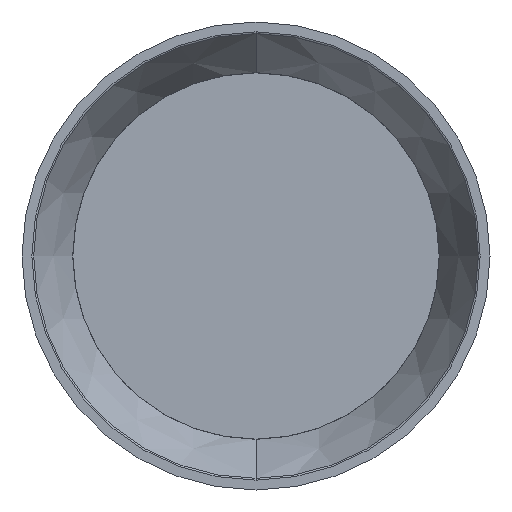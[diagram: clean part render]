
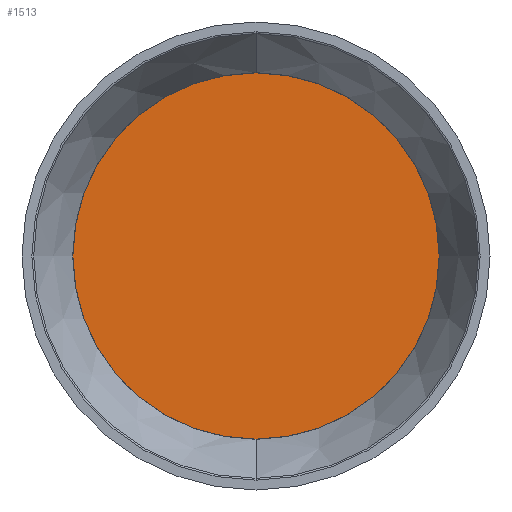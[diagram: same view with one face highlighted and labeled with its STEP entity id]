
A CAD part, front view. The second image highlights one B-rep face of the part: STEP entity #1513.
In plain terms, the highlighted planar face has unit normal (0, -1, 0).
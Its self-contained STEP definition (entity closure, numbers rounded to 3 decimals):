
#46 = EDGE_LOOP ( 'NONE', ( #982, #718 ) ) ;
#263 = CARTESIAN_POINT ( 'NONE',  ( 0., 0., 96.5 ) ) ;
#294 = CIRCLE ( 'NONE', #1826, 96.5 ) ;
#308 = DIRECTION ( 'NONE',  ( 0., 0., 1. ) ) ;
#346 = DIRECTION ( 'NONE',  ( 0., 0., 1. ) ) ;
#408 = EDGE_CURVE ( 'NONE', #1332, #1598, #294, .T. ) ;
#433 = EDGE_CURVE ( 'NONE', #1598, #1332, #1397, .T. ) ;
#571 = CARTESIAN_POINT ( 'NONE',  ( 0., 0., 0. ) ) ;
#597 = DIRECTION ( 'NONE',  ( 0., 1., 0. ) ) ;
#673 = DIRECTION ( 'NONE',  ( 0., 1., 0. ) ) ;
#718 = ORIENTED_EDGE ( 'NONE', *, *, #408, .F. ) ;
#747 = CARTESIAN_POINT ( 'NONE',  ( 0., 0., 0. ) ) ;
#823 = FACE_OUTER_BOUND ( 'NONE', #46, .T. ) ;
#825 = AXIS2_PLACEMENT_3D ( 'NONE', #571, #673, #346 ) ;
#828 = AXIS2_PLACEMENT_3D ( 'NONE', #747, #597, #308 ) ;
#861 = DIRECTION ( 'NONE',  ( 0., 1., 0. ) ) ;
#982 = ORIENTED_EDGE ( 'NONE', *, *, #433, .F. ) ;
#1296 = PLANE ( 'NONE',  #828 ) ;
#1332 = VERTEX_POINT ( 'NONE', #263 ) ;
#1397 = CIRCLE ( 'NONE', #825, 96.5 ) ;
#1513 = ADVANCED_FACE ( 'NONE', ( #823 ), #1296, .F. ) ;
#1593 = CARTESIAN_POINT ( 'NONE',  ( 0., 0., 0. ) ) ;
#1598 = VERTEX_POINT ( 'NONE', #1692 ) ;
#1692 = CARTESIAN_POINT ( 'NONE',  ( 0., 0., -96.5 ) ) ;
#1701 = DIRECTION ( 'NONE',  ( 0., 0., 1. ) ) ;
#1826 = AXIS2_PLACEMENT_3D ( 'NONE', #1593, #861, #1701 ) ;
